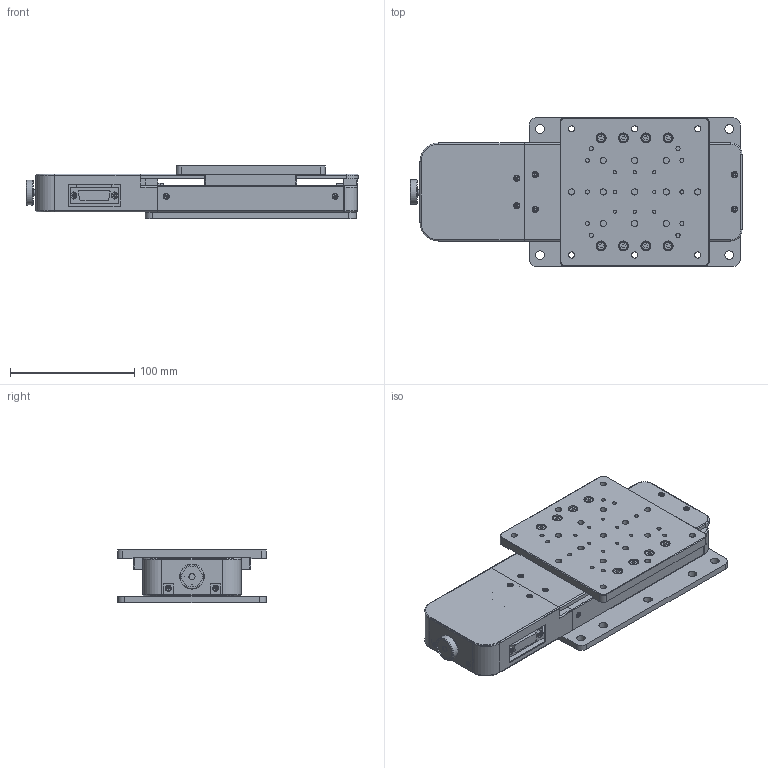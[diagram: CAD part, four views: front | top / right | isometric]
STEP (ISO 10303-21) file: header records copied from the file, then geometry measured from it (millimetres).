
FILE_DESCRIPTION((''),'2;1');
FILE_NAME('Z:\1規格品図面ﾃﾞｰﾀ\世界カタログ\OSMS\X\HP_ﾀﾞｳﾝﾛｰﾄﾞ用\3D\OSMS26-50(INCH)\OSMS26-50(X)-INCH_STP.stp','2014-03-24T09:13:19',('kawashima'),(''),'Autodesk Inventor 2008','Autodesk Inventor 2008','');
FILE_SCHEMA(('AUTOMOTIVE_DESIGN { 1 0 10303 214 1 1 1 1 }'));
Length unit declared in the file: millimetre
Products named in the file (3): OSMS2605I-M02-13001-TS01; OSMS2605I-M02-13001-S08; OSMS2605I-M02-13001-S03
Assembly tree (2 placements, depth 2):
  OSMS2605I-M02-13001-TS01
    OSMS2605I-M02-13001-S08
    OSMS2605I-M02-13001-S03
Bounding box: 267.5 x 120 x 43 mm (x, y, z)
Volume: 486796.9 mm3; surface area: 262110.1 mm2
Topology: 66 solids, 82 shells, 1997 faces, 5025 edges, 3285 vertices
Faces by surface type: plane 1262, cylinder 296, bspline 268, cone 156, torus 14, sphere 1
Full cylindrical faces by diameter (mm): 1.567 x2, 2 x4, 2.113 x2, 2.5 x2, 2.6 x6, 3 x17, 3.5 x1, 4 x34, 4.5 x8, 5 x3, 5.5 x8, 6 x1, 7 x16, 8 x7, 15 x1, 20 x1
Entity records: 59329 total; most frequent: CARTESIAN_POINT 14219, DIRECTION 8826, ORIENTED_EDGE 8726, EDGE_CURVE 4363, VERTEX_POINT 3046, VECTOR 2990, LINE 2990, AXIS2_PLACEMENT_3D 2918
